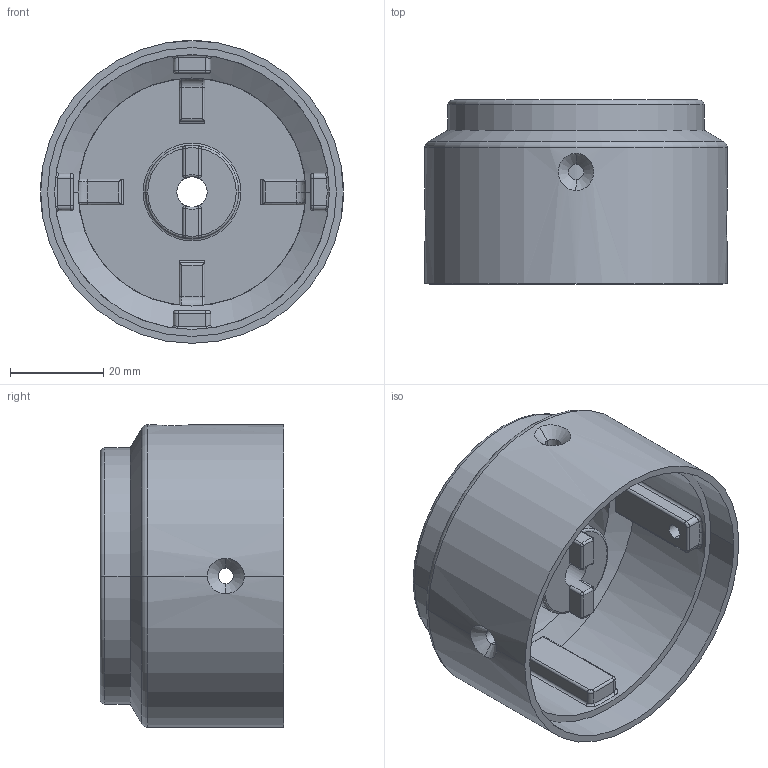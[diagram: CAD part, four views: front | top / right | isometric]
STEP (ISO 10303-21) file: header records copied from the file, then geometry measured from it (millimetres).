
FILE_DESCRIPTION (( 'STEP AP214' ), '1' );
FILE_NAME ('31010000006A.STEP', '2014-03-26T12:15:14', ( 'PC01TECNICO' ), ( 'Valbia' ), 'SwSTEP 2.0', 'SolidWorks 2010', '' );
FILE_SCHEMA (( 'AUTOMOTIVE_DESIGN' ));
Length unit declared in the file: millimetre
Products named in the file (1): 31010000006A
Bounding box: 65 x 39.5 x 65 mm (x, y, z)
Volume: 34868.9 mm3; surface area: 23236.9 mm2
Topology: 1 solids, 1 shells, 274 faces, 704 edges, 433 vertices
Faces by surface type: cylinder 120, plane 89, torus 31, bspline 16, cone 10, sphere 8
Entity records: 9538 total; most frequent: CARTESIAN_POINT 2862, DIRECTION 1394, ORIENTED_EDGE 1392, EDGE_CURVE 696, AXIS2_PLACEMENT_3D 539, VERTEX_POINT 433, LINE 316, VECTOR 316
